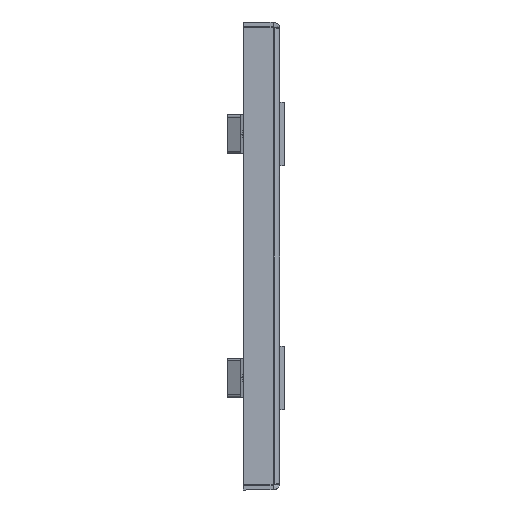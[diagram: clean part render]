
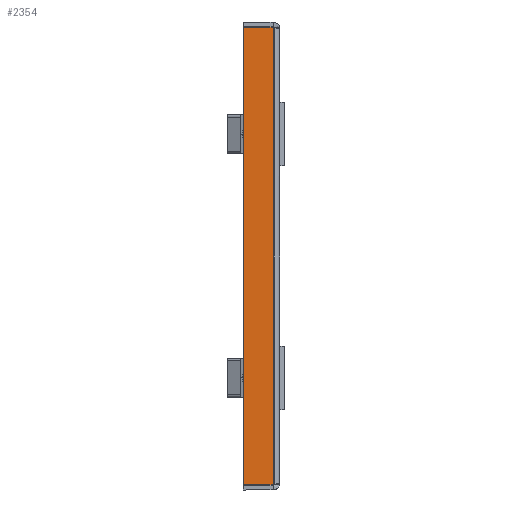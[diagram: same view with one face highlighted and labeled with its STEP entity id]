
A CAD part, left-side view. The second image highlights one B-rep face of the part: STEP entity #2354.
In plain terms, the highlighted planar face has unit normal (-1, 0, 0).
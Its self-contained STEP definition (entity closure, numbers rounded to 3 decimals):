
#119 = CARTESIAN_POINT ( 'NONE',  ( 0., 0.737, -2.071 ) ) ;
#261 = ORIENTED_EDGE ( 'NONE', *, *, #2640, .F. ) ;
#333 = VERTEX_POINT ( 'NONE', #4709 ) ;
#474 = LINE ( 'NONE', #4793, #4553 ) ;
#511 = ORIENTED_EDGE ( 'NONE', *, *, #2327, .T. ) ;
#535 = LINE ( 'NONE', #1928, #1598 ) ;
#541 = VECTOR ( 'NONE', #1909, 1000. ) ;
#548 = CARTESIAN_POINT ( 'NONE',  ( 0., 0.737, -189.929 ) ) ;
#658 = CARTESIAN_POINT ( 'NONE',  ( 0., 0.737, -2.071 ) ) ;
#762 = LINE ( 'NONE', #119, #1396 ) ;
#1073 = VERTEX_POINT ( 'NONE', #658 ) ;
#1126 = ORIENTED_EDGE ( 'NONE', *, *, #3894, .F. ) ;
#1145 = ORIENTED_EDGE ( 'NONE', *, *, #4957, .T. ) ;
#1156 = CARTESIAN_POINT ( 'NONE',  ( 0., 13., 0. ) ) ;
#1181 = DIRECTION ( 'NONE',  ( 0., 1., 0. ) ) ;
#1193 = DIRECTION ( 'NONE',  ( 0., 0., -1. ) ) ;
#1201 = EDGE_LOOP ( 'NONE', ( #1126, #1145, #511, #261 ) ) ;
#1396 = VECTOR ( 'NONE', #2805, 1000. ) ;
#1497 = CARTESIAN_POINT ( 'NONE',  ( 0., 0., 0. ) ) ;
#1559 = DIRECTION ( 'NONE',  ( 1., 0., 0. ) ) ;
#1598 = VECTOR ( 'NONE', #1181, 1000. ) ;
#1909 = DIRECTION ( 'NONE',  ( 0., 0., -1. ) ) ;
#1928 = CARTESIAN_POINT ( 'NONE',  ( 0., 0.737, -189.929 ) ) ;
#2054 = VERTEX_POINT ( 'NONE', #548 ) ;
#2152 = AXIS2_PLACEMENT_3D ( 'NONE', #1497, #1559, #2330 ) ;
#2214 = FACE_OUTER_BOUND ( 'NONE', #1201, .T. ) ;
#2292 = PLANE ( 'NONE',  #2152 ) ;
#2327 = EDGE_CURVE ( 'NONE', #333, #3006, #4629, .T. ) ;
#2330 = DIRECTION ( 'NONE',  ( 0., 1., 0. ) ) ;
#2354 = ADVANCED_FACE ( 'NONE', ( #2214 ), #2292, .F. ) ;
#2640 = EDGE_CURVE ( 'NONE', #2054, #3006, #535, .T. ) ;
#2805 = DIRECTION ( 'NONE',  ( 0., 1., 0. ) ) ;
#3006 = VERTEX_POINT ( 'NONE', #4892 ) ;
#3894 = EDGE_CURVE ( 'NONE', #1073, #2054, #474, .T. ) ;
#4553 = VECTOR ( 'NONE', #1193, 1000. ) ;
#4629 = LINE ( 'NONE', #1156, #541 ) ;
#4709 = CARTESIAN_POINT ( 'NONE',  ( 0., 13., -2.071 ) ) ;
#4793 = CARTESIAN_POINT ( 'NONE',  ( 0., 0.737, -192. ) ) ;
#4892 = CARTESIAN_POINT ( 'NONE',  ( 0., 13., -189.929 ) ) ;
#4957 = EDGE_CURVE ( 'NONE', #1073, #333, #762, .T. ) ;
